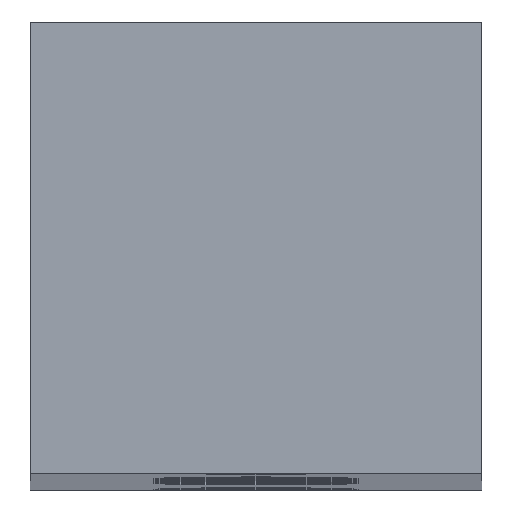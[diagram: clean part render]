
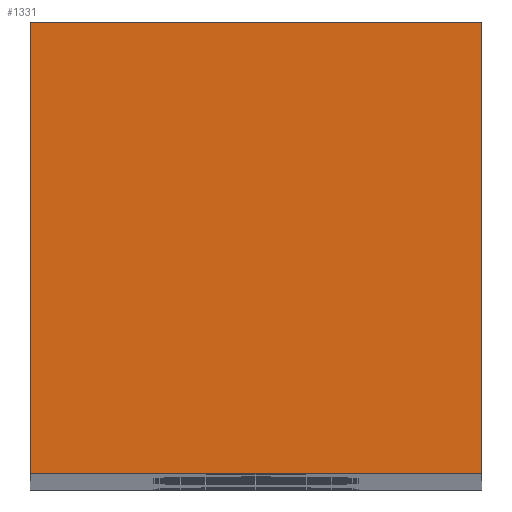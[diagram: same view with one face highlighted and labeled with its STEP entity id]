
A CAD part, top view. The second image highlights one B-rep face of the part: STEP entity #1331.
In plain terms, the highlighted planar face has unit normal (0, 0, 1).
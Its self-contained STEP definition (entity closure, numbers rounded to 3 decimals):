
#88 = CARTESIAN_POINT ( 'NONE',  ( 2.5, -2.5, 0. ) ) ;
#152 = DIRECTION ( 'NONE',  ( 0., -1., 0. ) ) ;
#268 = EDGE_LOOP ( 'NONE', ( #521, #2076, #1367, #2382 ) ) ;
#473 = CARTESIAN_POINT ( 'NONE',  ( -2.5, -2.5, 0. ) ) ;
#521 = ORIENTED_EDGE ( 'NONE', *, *, #2402, .T. ) ;
#576 = CARTESIAN_POINT ( 'NONE',  ( -2.5, -2.5, 0. ) ) ;
#612 = DIRECTION ( 'NONE',  ( 0., 1., 0. ) ) ;
#622 = CARTESIAN_POINT ( 'NONE',  ( 2.5, 2.5, 0. ) ) ;
#673 = CARTESIAN_POINT ( 'NONE',  ( 2.5, -2.5, 0. ) ) ;
#757 = PLANE ( 'NONE',  #772 ) ;
#772 = AXIS2_PLACEMENT_3D ( 'NONE', #1120, #1112, #1142 ) ;
#935 = CARTESIAN_POINT ( 'NONE',  ( 2.5, 2.5, 0. ) ) ;
#969 = VERTEX_POINT ( 'NONE', #88 ) ;
#973 = EDGE_CURVE ( 'NONE', #1045, #969, #1854, .T. ) ;
#1045 = VERTEX_POINT ( 'NONE', #473 ) ;
#1061 = EDGE_CURVE ( 'NONE', #969, #1995, #1684, .T. ) ;
#1112 = DIRECTION ( 'NONE',  ( 0., 0., 1. ) ) ;
#1120 = CARTESIAN_POINT ( 'NONE',  ( -2.5, 2.5, 0. ) ) ;
#1142 = DIRECTION ( 'NONE',  ( 1., 0., 0. ) ) ;
#1154 = VERTEX_POINT ( 'NONE', #1568 ) ;
#1155 = DIRECTION ( 'NONE',  ( -1., 0., 0. ) ) ;
#1331 = ADVANCED_FACE ( 'NONE', ( #1797 ), #757, .T. ) ;
#1346 = EDGE_CURVE ( 'NONE', #1995, #1154, #1631, .T. ) ;
#1367 = ORIENTED_EDGE ( 'NONE', *, *, #1061, .T. ) ;
#1568 = CARTESIAN_POINT ( 'NONE',  ( -2.5, 2.5, 0. ) ) ;
#1628 = VECTOR ( 'NONE', #1155, 1000. ) ;
#1631 = LINE ( 'NONE', #935, #1628 ) ;
#1684 = LINE ( 'NONE', #673, #2449 ) ;
#1760 = VECTOR ( 'NONE', #152, 1000. ) ;
#1797 = FACE_OUTER_BOUND ( 'NONE', #268, .T. ) ;
#1854 = LINE ( 'NONE', #2233, #2095 ) ;
#1939 = LINE ( 'NONE', #576, #1760 ) ;
#1995 = VERTEX_POINT ( 'NONE', #622 ) ;
#2076 = ORIENTED_EDGE ( 'NONE', *, *, #973, .T. ) ;
#2095 = VECTOR ( 'NONE', #2430, 1000. ) ;
#2233 = CARTESIAN_POINT ( 'NONE',  ( 2.5, -2.5, 0. ) ) ;
#2382 = ORIENTED_EDGE ( 'NONE', *, *, #1346, .T. ) ;
#2402 = EDGE_CURVE ( 'NONE', #1154, #1045, #1939, .T. ) ;
#2430 = DIRECTION ( 'NONE',  ( 1., 0., 0. ) ) ;
#2449 = VECTOR ( 'NONE', #612, 1000. ) ;
